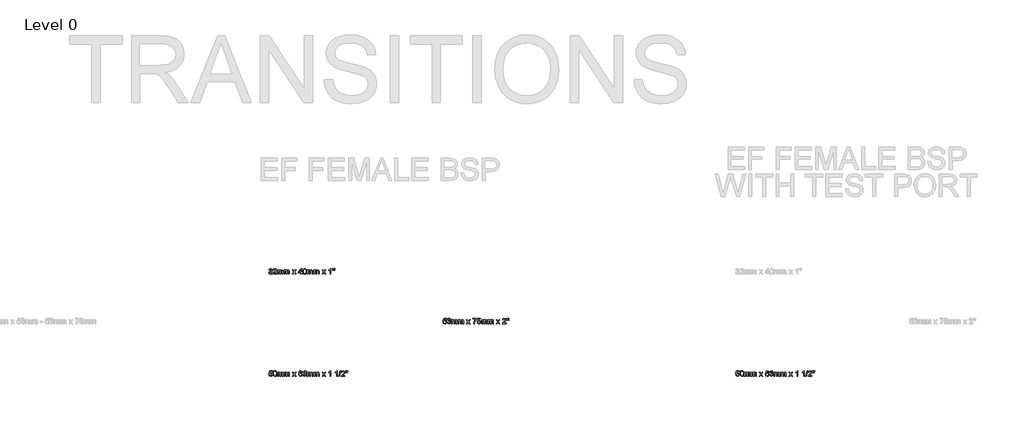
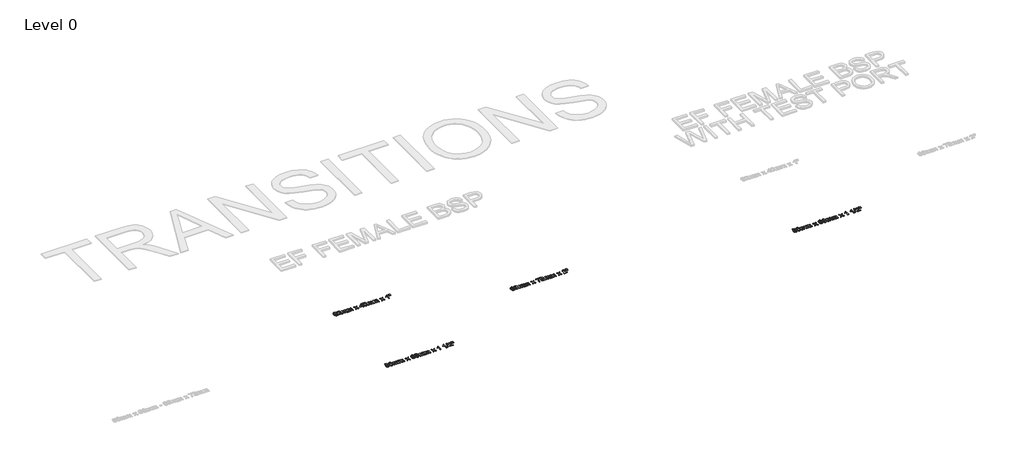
# One storey, part 4 of 21: 4 proxies.
"""IFC4 building model written with IfcOpenShell, lengths in millimetres."""

import ifcopenshell
import ifcopenshell.guid

model = None  # the IFC model being written
_history = None  # IfcOwnerHistory: only IFC2X3 demands one
_inside = {}  # id of a spatial element -> (the spatial element, [elements in it])
_under = {}  # id of a project, library or spatial element -> (it, [spatial elements below it])
_declared = {}  # id of a project -> (the project, [libraries it declares])
_typed = {}  # id of a type object -> (the type object, [elements of that type])
_made_of = {}  # id of a material, layer set ... -> (it, [elements and type objects made of it])


def new_model(schema):
    """Start an empty IFC model of exactly this schema.

    Asked for "IFC4X3", IfcOpenShell would pick the latest addendum, in which some entities
    have other attributes; the version numbers below select the first issue.
    IFC2X3 requires an IfcOwnerHistory on every rooted entity: one is made here for all.
    """
    global model, _history
    if schema == "IFC4X3":
        model = ifcopenshell.file(schema_version=(4, 3, 0, 0))
    else:
        model = ifcopenshell.file(schema=schema)
    _inside.clear()
    _under.clear()
    _declared.clear()
    _typed.clear()
    _made_of.clear()
    _history = None
    if model.schema == "IFC2X3":
        org = make("IfcOrganization", Name="unknown")
        user = make(
            "IfcPersonAndOrganization",
            ThePerson=make("IfcPerson", FamilyName="unknown"),
            TheOrganization=org,
        )
        app = make(
            "IfcApplication",
            ApplicationDeveloper=org,
            Version="unknown",
            ApplicationFullName="unknown",
            ApplicationIdentifier="unknown",
        )
        _history = make(
            "IfcOwnerHistory",
            OwningUser=user,
            OwningApplication=app,
            ChangeAction="ADDED",
            CreationDate=0,
        )
    return model


def make(cls, **values):
    """One entity of the class cls with the attributes given. An attribute that is None is left unset."""
    return model.create_entity(
        cls, **{name: value for name, value in values.items() if value is not None}
    )


def rooted(cls, **values):
    """An entity with a GlobalId (a new one), such as an element, a storey or a relation."""
    return make(cls, GlobalId=ifcopenshell.guid.new(), OwnerHistory=_history, **values)


def si_unit(unit_type, name, prefix=None):
    """IfcSIUnit, for example si_unit("LENGTHUNIT", "METRE", prefix="MILLI")."""
    return make("IfcSIUnit", UnitType=unit_type, Prefix=prefix, Name=name)


def assignment(units):
    """IfcUnitAssignment: the units of a project."""
    return None if units is None else make("IfcUnitAssignment", Units=units)


def point(xyz):
    """IfcCartesianPoint."""
    return None if xyz is None else make("IfcCartesianPoint", Coordinates=xyz)


def direction(xyz):
    """IfcDirection."""
    return None if xyz is None else make("IfcDirection", DirectionRatios=xyz)


def frame(location, z_axis=None, x_axis=None):
    """IfcAxis2Placement3D, a coordinate frame: its origin and axes. An axis left out is left unset."""
    return make(
        "IfcAxis2Placement3D",
        Location=point(location),
        Axis=direction(z_axis),
        RefDirection=direction(x_axis),
    )


def origin():
    """The frame at (0, 0, 0) with its axes left unset."""
    return frame((0.0, 0.0, 0.0))


def origin_with_axes():
    """The frame at (0, 0, 0) with the z axis (0, 0, 1) and the x axis (1, 0, 0) written out."""
    return frame((0.0, 0.0, 0.0), z_axis=(0.0, 0.0, 1.0), x_axis=(1.0, 0.0, 0.0))


def place(relative_to, where):
    """IfcLocalPlacement: puts the frame where relative to a parent placement (None: the world)."""
    return make(
        "IfcLocalPlacement", PlacementRelTo=relative_to, RelativePlacement=where
    )


def context(
    kind, dimensions, precision=None, world=None, true_north=None, identifier=None
):
    """IfcGeometricRepresentationContext, for example the 3D "Model" context."""
    return make(
        "IfcGeometricRepresentationContext",
        ContextIdentifier=identifier,
        ContextType=kind,
        CoordinateSpaceDimension=dimensions,
        Precision=precision,
        WorldCoordinateSystem=world,
        TrueNorth=true_north,
    )


def project(units=None, contexts=None):
    """IfcProject with its units and contexts."""
    return rooted(
        "IfcProject",
        Name="project",
        RepresentationContexts=contexts,
        UnitsInContext=assignment(units),
    )


def spatial(cls, under=None, at=None, **own):
    """A site, building, storey or space (cls), placed at a placement, below another one or the project."""
    s = rooted(cls, ObjectPlacement=at, **own)
    if under is not None:
        _under.setdefault(under.id(), (under, []))[1].append(s)
    return s


def polyline(points):
    """IfcPolyline through the points."""
    return make("IfcPolyline", Points=[point(p) for p in points])


def outline(outer, holes=None, kind="AREA"):
    """IfcArbitraryClosedProfileDef: a profile drawn as a closed curve; with holes, ...WithVoids."""
    if holes is None:
        return make("IfcArbitraryClosedProfileDef", ProfileType=kind, OuterCurve=outer)
    return make(
        "IfcArbitraryProfileDefWithVoids",
        ProfileType=kind,
        OuterCurve=outer,
        InnerCurves=holes,
    )


def extrude(swept, where, along, depth):
    """IfcExtrudedAreaSolid: the profile swept, set in the frame where, extruded along a direction by depth."""
    return make(
        "IfcExtrudedAreaSolid",
        SweptArea=swept,
        Position=where,
        ExtrudedDirection=direction(along),
        Depth=depth,
    )


def shape(context_of_items, identifier, shape_type, items):
    """IfcShapeRepresentation: the items that make up one representation, for example the "Body"."""
    return make(
        "IfcShapeRepresentation",
        ContextOfItems=context_of_items,
        RepresentationIdentifier=identifier,
        RepresentationType=shape_type,
        Items=items,
    )


def made_of(thing, what):
    """Note that an element or type object is made of a material, layer set ...; save() writes the relation."""
    if what is not None:
        _made_of.setdefault(what.id(), (what, []))[1].append(thing)
    return thing


def element(
    cls,
    number,
    at=None,
    inside=None,
    cuts=None,
    type_object=None,
    material=None,
    context=None,
    identifier="Body",
    shape_type=None,
    held_by="IfcProductDefinitionShape",
    body=None,
    shapes=None,
    **own,
):
    """One element of the class cls, such as IfcWall. Its Tag is "e" and its number.

    at: its placement. inside: the storey or other place that contains it. cuts: it is an
    opening in that element (IfcRelVoidsElement). A single representation is given by context,
    identifier, shape_type and body (its items); several are given by shapes. held_by: the class
    of the entity that holds the representations. save() writes the other relations.
    """
    e = rooted(cls, Tag="e%d" % number, ObjectPlacement=at, **own)
    if body is not None:
        shapes = [shape(context, identifier, shape_type, body)]
    if shapes is not None:
        e.Representation = make(held_by, Representations=shapes)
    if inside is not None:
        _inside.setdefault(inside.id(), (inside, []))[1].append(e)
    if cuts is not None:
        rooted(
            "IfcRelVoidsElement", RelatingBuildingElement=cuts, RelatedOpeningElement=e
        )
    if type_object is not None:
        _typed.setdefault(type_object.id(), (type_object, []))[1].append(e)
    return made_of(e, material)


def aggregate(whole, parts):
    """IfcRelAggregates: a whole, such as a stair, and the parts it consists of."""
    return rooted("IfcRelAggregates", RelatingObject=whole, RelatedObjects=parts)


def save(model, path):
    """Write the relations noted so far, then the file.

    IfcRelAggregates (storeys below a building ...), IfcRelContainedInSpatialStructure (elements
    in a storey), IfcRelDefinesByType, IfcRelAssociatesMaterial and IfcRelDeclares: one each for
    every whole, place, type object, material and project.
    """
    for whole, parts in _under.values():
        aggregate(whole, parts)
    for where, things in _inside.values():
        rooted(
            "IfcRelContainedInSpatialStructure",
            RelatedElements=things,
            RelatingStructure=where,
        )
    for kind, things in _typed.values():
        rooted("IfcRelDefinesByType", RelatedObjects=things, RelatingType=kind)
    for what, things in _made_of.values():
        rooted("IfcRelAssociatesMaterial", RelatedObjects=things, RelatingMaterial=what)
    for by, libraries in _declared.values():
        rooted("IfcRelDeclares", RelatingContext=by, RelatedDefinitions=libraries)
    model.write(path)


model = new_model("IFC4")

# Units and contexts
model_context = context("Model", 3, world=origin())
ifc_project = project(units=[si_unit("LENGTHUNIT", "METRE", prefix="MILLI")], contexts=[model_context])

# Site, building, storey
site = spatial("IfcSite", under=ifc_project)
building = spatial("IfcBuilding", under=site)
storey = spatial("IfcBuildingStorey", under=building, Name="Level 0", Elevation=0.0)

# Proxies
placement = place(None, origin())
element("IfcBuildingElementProxy", 1, Name="50mm", ObjectType="50mm", at=placement, inside=storey, context=model_context, shape_type="SweptSolid", body=[
    extrude(outline(polyline([(-7438.2285688, -12783.2605095), (-7431.9500494, -12782.4756946), (-7428.4858273, -12789.0853078), (-7422.0049728, -12791.1086588), (-7414.3775528, -12788.3250183), (-7411.5448614, -12781.4333623), (-7414.3530273, -12774.9402451), (-7421.4899381, -12772.3712025), (-7425.8922593, -12773.0579155), (-7425.1932835, -12766.7793962), (-7417.0630914, -12765.0503508), (-7413.8993062, -12759.5075954), (-7416.1924373, -12754.5963707), (-7422.1030747, -12752.6527275), (-7428.0872885, -12754.6147648), (-7431.1652345, -12760.5008768), (-7437.4437539, -12759.7160618), (-7432.3056687, -12749.8690871), (-7422.3238039, -12746.3742082), (-7414.7515662, -12748.0971222), (-7409.4540654, -12752.8060117), (-7407.6207868, -12759.1397134), (-7409.3620949, -12764.9277234), (-7414.5124429, -12769.08479), (-7407.6698378, -12773.3767466), (-7405.2663421, -12781.5437269), (-7410.0733335, -12792.7763905), (-7422.225702, -12797.3871782), (-7433.2376364, -12793.4508408), (-7438.2285688, -12783.2605095)])), origin_with_axes(), (0.0, 0.0, 1.0), 5.0),
    extrude(outline(polyline([(-7367.5952258, -12790.3238438), (-7367.5952258, -12796.6023632), (-7400.5574525, -12796.6023632), (-7399.8830022, -12792.2736184), (-7396.0692922, -12785.6088229), (-7388.2088802, -12778.3308908), (-7377.3686241, -12767.8707794), (-7374.6585601, -12760.7583942), (-7377.2153399, -12755.0010409), (-7383.8923981, -12752.6527275), (-7390.8514992, -12754.9458586), (-7393.4941182, -12761.2856917), (-7399.7726376, -12760.5008768), (-7394.9595148, -12749.9917144), (-7383.7575081, -12746.3742082), (-7372.5187131, -12750.3963846), (-7368.3800407, -12760.3782494), (-7369.4959494, -12766.3318064), (-7373.2054262, -12772.4876984), (-7382.200141, -12781.0900058), (-7389.4228908, -12787.1294019), (-7392.2555822, -12790.3238438), (-7367.5952258, -12790.3238438)])), origin_with_axes(), (0.0, 0.0, 1.0), 5.0),
    extrude(outline(polyline([(-7359.7470765, -12796.6023632), (-7359.7470765, -12759.7160618), (-7353.4685571, -12759.7160618), (-7353.4685571, -12765.7861148), (-7349.1520751, -12760.8135765), (-7343.0084457, -12758.9312469), (-7336.7176636, -12760.8503647), (-7333.2595729, -12766.2275732), (-7328.360611, -12760.7553285), (-7322.1740621, -12758.9312469), (-7313.9641622, -12761.9662734), (-7311.0885513, -12771.3166074), (-7311.0885513, -12796.6023632), (-7317.3670707, -12796.6023632), (-7317.3670707, -12774.0144087), (-7317.9495505, -12768.7720903), (-7320.0587406, -12766.190785), (-7323.6455901, -12765.2097663), (-7329.8198762, -12767.7236266), (-7332.2785542, -12775.7802423), (-7332.2785542, -12796.6023632), (-7338.5570736, -12796.6023632), (-7338.5570736, -12773.3154329), (-7340.0102075, -12767.2331173), (-7344.7742793, -12765.2097663), (-7349.4218552, -12766.558667), (-7352.512064, -12770.507267), (-7353.4685571, -12777.999797), (-7353.4685571, -12796.6023632), (-7359.7470765, -12796.6023632)])), origin_with_axes(), (0.0, 0.0, 1.0), 5.0),
    extrude(outline(polyline([(-7301.6707722, -12796.6023632), (-7301.6707722, -12759.7160618), (-7295.3922528, -12759.7160618), (-7295.3922528, -12765.7861148), (-7291.0757708, -12760.8135765), (-7284.9321414, -12758.9312469), (-7278.6413593, -12760.8503647), (-7275.1832686, -12766.2275732), (-7270.2843067, -12760.7553285), (-7264.0977578, -12758.9312469), (-7255.8878579, -12761.9662734), (-7253.012247, -12771.3166074), (-7253.012247, -12796.6023632), (-7259.2907664, -12796.6023632), (-7259.2907664, -12774.0144087), (-7259.8732462, -12768.7720903), (-7261.9824363, -12766.190785), (-7265.5692858, -12765.2097663), (-7271.7435719, -12767.7236266), (-7274.2022499, -12775.7802423), (-7274.2022499, -12796.6023632), (-7280.4807693, -12796.6023632), (-7280.4807693, -12773.3154329), (-7281.9339032, -12767.2331173), (-7286.697975, -12765.2097663), (-7291.3455509, -12766.558667), (-7294.4357597, -12770.507267), (-7295.3922528, -12777.999797), (-7295.3922528, -12796.6023632), (-7301.6707722, -12796.6023632)])), origin_with_axes(), (0.0, 0.0, 1.0), 5.0),
    extrude(outline(polyline([(-7227.8981695, -12796.6023632), (-7214.4827394, -12778.0611107), (-7227.1133545, -12759.7160618), (-7219.5595109, -12759.7160618), (-7213.4649325, -12768.5452297), (-7210.6199784, -12772.714559), (-7208.155169, -12769.3055192), (-7201.2144621, -12759.7160618), (-7193.6606184, -12759.7160618), (-7206.9288957, -12778.0611107), (-7194.1511278, -12796.6023632), (-7201.7049714, -12796.6023632), (-7209.3937051, -12785.4555388), (-7210.8039194, -12783.4199251), (-7220.3443258, -12796.6023632), (-7227.8981695, -12796.6023632)])), origin_with_axes(), (0.0, 0.0, 1.0), 5.0),
    extrude(outline(polyline([(-7150.2014921, -12796.6023632), (-7150.2014921, -12784.8301394), (-7172.9611248, -12784.8301394), (-7172.9611248, -12778.55162), (-7148.6318622, -12747.1590231), (-7143.9229727, -12747.1590231), (-7143.9229727, -12778.55162), (-7137.6444533, -12778.55162), (-7137.6444533, -12784.8301394), (-7143.9229727, -12784.8301394), (-7143.9229727, -12796.6023632), (-7150.2014921, -12796.6023632)]), holes=[polyline([(-7150.2014921, -12778.55162), (-7150.2014921, -12759.1519761), (-7165.2356029, -12778.55162), (-7150.2014921, -12778.55162)])]), origin_with_axes(), (0.0, 0.0, 1.0), 5.0),
    extrude(outline(polyline([(-7132.1507488, -12771.8929559), (-7130.3052075, -12757.4413248), (-7124.8237658, -12749.1087977), (-7115.6696355, -12746.3742082), (-7108.336521, -12747.9928889), (-7103.2720122, -12752.6588589), (-7100.3289563, -12760.0900752), (-7099.1885221, -12771.8929559), (-7101.0156693, -12786.2832733), (-7106.4787169, -12794.6341946), (-7115.6696355, -12797.3871782), (-7127.1475537, -12792.6047122), (-7130.8999501, -12784.1097038), (-7132.1507488, -12771.8929559)]), holes=[polyline([(-7125.8722295, -12771.8806932), (-7122.9291735, -12787.4727584), (-7115.6696355, -12791.1086588), (-7108.4100974, -12787.4604957), (-7105.4670415, -12771.8806932), (-7108.3119956, -12756.4664376), (-7115.7432119, -12752.6527275), (-7122.8310716, -12756.0127164), (-7125.8722295, -12771.8806932)])]), origin_with_axes(), (0.0, 0.0, 1.0), 5.0),
    extrude(outline(polyline([(-7092.1251878, -12796.6023632), (-7092.1251878, -12759.7160618), (-7085.8466684, -12759.7160618), (-7085.8466684, -12765.7861148), (-7081.5301863, -12760.8135765), (-7075.386557, -12758.9312469), (-7069.0957749, -12760.8503647), (-7065.6376841, -12766.2275732), (-7060.7387222, -12760.7553285), (-7054.5521733, -12758.9312469), (-7046.3422735, -12761.9662734), (-7043.4666625, -12771.3166074), (-7043.4666625, -12796.6023632), (-7049.7451819, -12796.6023632), (-7049.7451819, -12774.0144087), (-7050.3276618, -12768.7720903), (-7052.4368519, -12766.190785), (-7056.0237013, -12765.2097663), (-7062.1979875, -12767.7236266), (-7064.6566655, -12775.7802423), (-7064.6566655, -12796.6023632), (-7070.9351848, -12796.6023632), (-7070.9351848, -12773.3154329), (-7072.3883187, -12767.2331173), (-7077.1523906, -12765.2097663), (-7081.7999664, -12766.558667), (-7084.8901752, -12770.507267), (-7085.8466684, -12777.999797), (-7085.8466684, -12796.6023632), (-7092.1251878, -12796.6023632)])), origin_with_axes(), (0.0, 0.0, 1.0), 5.0),
    extrude(outline(polyline([(-7034.0488835, -12796.6023632), (-7034.0488835, -12759.7160618), (-7027.7703641, -12759.7160618), (-7027.7703641, -12765.7861148), (-7023.453882, -12760.8135765), (-7017.3102527, -12758.9312469), (-7011.0194706, -12760.8503647), (-7007.5613798, -12766.2275732), (-7002.6624179, -12760.7553285), (-6996.475869, -12758.9312469), (-6988.2659692, -12761.9662734), (-6985.3903582, -12771.3166074), (-6985.3903582, -12796.6023632), (-6991.6688776, -12796.6023632), (-6991.6688776, -12774.0144087), (-6992.2513574, -12768.7720903), (-6994.3605476, -12766.190785), (-6997.947397, -12765.2097663), (-7004.1216832, -12767.7236266), (-7006.5803612, -12775.7802423), (-7006.5803612, -12796.6023632), (-7012.8588805, -12796.6023632), (-7012.8588805, -12773.3154329), (-7014.3120144, -12767.2331173), (-7019.0760863, -12765.2097663), (-7023.7236621, -12766.558667), (-7026.8138709, -12770.507267), (-7027.7703641, -12777.999797), (-7027.7703641, -12796.6023632), (-7034.0488835, -12796.6023632)])), origin_with_axes(), (0.0, 0.0, 1.0), 5.0),
    extrude(outline(polyline([(-6960.2762807, -12796.6023632), (-6946.8608506, -12778.0611107), (-6959.4914658, -12759.7160618), (-6951.9376221, -12759.7160618), (-6945.8430438, -12768.5452297), (-6942.9980897, -12772.714559), (-6940.5332803, -12769.3055192), (-6933.5925733, -12759.7160618), (-6926.0387297, -12759.7160618), (-6939.307007, -12778.0611107), (-6926.529239, -12796.6023632), (-6934.0830826, -12796.6023632), (-6941.7718163, -12785.4555388), (-6943.1820307, -12783.4199251), (-6952.7224371, -12796.6023632), (-6960.2762807, -12796.6023632)])), origin_with_axes(), (0.0, 0.0, 1.0), 5.0),
    extrude(outline(polyline([(-6879.4403436, -12796.6023632), (-6885.718863, -12796.6023632), (-6885.718863, -12757.4597189), (-6891.6662886, -12761.6964933), (-6898.2759018, -12764.8664098), (-6898.2759018, -12758.9312469), (-6889.0727205, -12753.0573977), (-6883.4870456, -12746.3742082), (-6879.4403436, -12746.3742082), (-6879.4403436, -12796.6023632)])), origin_with_axes(), (0.0, 0.0, 1.0), 5.0),
    extrude(outline(polyline([(-6850.4757679, -12764.4249514), (-6851.9718213, -12754.7251294), (-6851.9718213, -12746.3742082), (-6845.6933019, -12746.3742082), (-6845.6933019, -12754.7251294), (-6847.1648299, -12764.4249514), (-6850.4757679, -12764.4249514)])), origin_with_axes(), (0.0, 0.0, 1.0), 5.0),
    extrude(outline(polyline([(-6862.9960184, -12764.4249514), (-6864.5288601, -12754.7251294), (-6864.5288601, -12746.3742082), (-6858.2503407, -12746.3742082), (-6858.2503407, -12754.7251294), (-6859.6237668, -12764.4249514), (-6862.9960184, -12764.4249514)])), origin_with_axes(), (0.0, 0.0, 1.0), 5.0),
])
element("IfcBuildingElementProxy", 2, Name="50mm", ObjectType="50mm", at=placement, inside=storey, context=model_context, shape_type="SweptSolid", body=[
    extrude(outline(polyline([(-7438.2285688, -13703.2605095), (-7431.9500494, -13702.4756946), (-7428.7862643, -13708.9442864), (-7422.225702, -13711.1086588), (-7414.3530273, -13708.0981578), (-7411.5448614, -13700.1089871), (-7414.1752177, -13692.6532453), (-7422.1276002, -13689.9186558), (-7427.6396987, -13691.0100391), (-7431.1652345, -13693.8427305), (-7437.4437539, -13693.0579155), (-7431.9500494, -13667.1590231), (-7407.6207868, -13667.1590231), (-7407.6207868, -13673.4375425), (-7426.8732779, -13673.4375425), (-7429.5588165, -13687.2699055), (-7420.3740293, -13683.6401365), (-7409.6380064, -13688.1405595), (-7405.2663421, -13699.7165797), (-7409.2026794, -13711.3661762), (-7414.8557994, -13715.8819277), (-7422.2502275, -13717.3871782), (-7433.3296069, -13713.5182858), (-7438.2285688, -13703.2605095)])), origin_with_axes(), (0.0, 0.0, 1.0), 5.0),
    extrude(outline(polyline([(-7399.7726376, -13691.8929559), (-7397.9270963, -13677.4413248), (-7392.4456545, -13669.1087977), (-7383.2915242, -13666.3742082), (-7375.9584098, -13667.9928889), (-7370.893901, -13672.6588589), (-7367.950845, -13680.0900752), (-7366.8104108, -13691.8929559), (-7368.6375581, -13706.2832733), (-7374.1006057, -13714.6341946), (-7383.2915242, -13717.3871782), (-7394.7694425, -13712.6047122), (-7398.5218388, -13704.1097038), (-7399.7726376, -13691.8929559)]), holes=[polyline([(-7393.4941182, -13691.8806932), (-7390.5510623, -13707.4727584), (-7383.2915242, -13711.1086588), (-7376.0319862, -13707.4604957), (-7373.0889302, -13691.8806932), (-7375.9338843, -13676.4664376), (-7383.3651006, -13672.6527275), (-7390.4529604, -13676.0127164), (-7393.4941182, -13691.8806932)])]), origin_with_axes(), (0.0, 0.0, 1.0), 5.0),
    extrude(outline(polyline([(-7359.7470765, -13716.6023632), (-7359.7470765, -13679.7160618), (-7353.4685571, -13679.7160618), (-7353.4685571, -13685.7861148), (-7349.1520751, -13680.8135765), (-7343.0084457, -13678.9312469), (-7336.7176636, -13680.8503647), (-7333.2595729, -13686.2275732), (-7328.360611, -13680.7553285), (-7322.1740621, -13678.9312469), (-7313.9641622, -13681.9662734), (-7311.0885513, -13691.3166074), (-7311.0885513, -13716.6023632), (-7317.3670707, -13716.6023632), (-7317.3670707, -13694.0144087), (-7317.9495505, -13688.7720903), (-7320.0587406, -13686.190785), (-7323.6455901, -13685.2097663), (-7329.8198762, -13687.7236266), (-7332.2785542, -13695.7802423), (-7332.2785542, -13716.6023632), (-7338.5570736, -13716.6023632), (-7338.5570736, -13693.3154329), (-7340.0102075, -13687.2331173), (-7344.7742793, -13685.2097663), (-7349.4218552, -13686.558667), (-7352.512064, -13690.507267), (-7353.4685571, -13697.999797), (-7353.4685571, -13716.6023632), (-7359.7470765, -13716.6023632)])), origin_with_axes(), (0.0, 0.0, 1.0), 5.0),
    extrude(outline(polyline([(-7301.6707722, -13716.6023632), (-7301.6707722, -13679.7160618), (-7295.3922528, -13679.7160618), (-7295.3922528, -13685.7861148), (-7291.0757708, -13680.8135765), (-7284.9321414, -13678.9312469), (-7278.6413593, -13680.8503647), (-7275.1832686, -13686.2275732), (-7270.2843067, -13680.7553285), (-7264.0977578, -13678.9312469), (-7255.8878579, -13681.9662734), (-7253.012247, -13691.3166074), (-7253.012247, -13716.6023632), (-7259.2907664, -13716.6023632), (-7259.2907664, -13694.0144087), (-7259.8732462, -13688.7720903), (-7261.9824363, -13686.190785), (-7265.5692858, -13685.2097663), (-7271.7435719, -13687.7236266), (-7274.2022499, -13695.7802423), (-7274.2022499, -13716.6023632), (-7280.4807693, -13716.6023632), (-7280.4807693, -13693.3154329), (-7281.9339032, -13687.2331173), (-7286.697975, -13685.2097663), (-7291.3455509, -13686.558667), (-7294.4357597, -13690.507267), (-7295.3922528, -13697.999797), (-7295.3922528, -13716.6023632), (-7301.6707722, -13716.6023632)])), origin_with_axes(), (0.0, 0.0, 1.0), 5.0),
    extrude(outline(polyline([(-7227.8981695, -13716.6023632), (-7214.4827394, -13698.0611107), (-7227.1133545, -13679.7160618), (-7219.5595109, -13679.7160618), (-7213.4649325, -13688.5452297), (-7210.6199784, -13692.714559), (-7208.155169, -13689.3055192), (-7201.2144621, -13679.7160618), (-7193.6606184, -13679.7160618), (-7206.9288957, -13698.0611107), (-7194.1511278, -13716.6023632), (-7201.7049714, -13716.6023632), (-7209.3937051, -13705.4555388), (-7210.8039194, -13703.4199251), (-7220.3443258, -13716.6023632), (-7227.8981695, -13716.6023632)])), origin_with_axes(), (0.0, 0.0, 1.0), 5.0),
    extrude(outline(polyline([(-7138.4292682, -13679.7160618), (-7144.7077876, -13680.5008768), (-7147.0867578, -13675.2646897), (-7153.37754, -13672.6527275), (-7159.0429227, -13674.1733065), (-7163.3287479, -13679.8816087), (-7165.1129756, -13691.0713528), (-7159.5763516, -13686.0620263), (-7152.7153524, -13684.4249514), (-7142.0467745, -13688.900849), (-7137.6444533, -13700.4646064), (-7139.7168552, -13709.1282274), (-7145.4190261, -13715.2595939), (-7153.6473201, -13717.3871782), (-7166.4434822, -13711.7463209), (-7170.1544918, -13704.2783164), (-7171.391495, -13693.1560174), (-7170.0180689, -13680.6510953), (-7165.8977905, -13672.1009045), (-7160.2722617, -13667.8058823), (-7152.9851325, -13666.3742082), (-7143.0645814, -13669.918138), (-7138.4292682, -13679.7160618)]), holes=[polyline([(-7165.1129756, -13700.3665045), (-7163.6598417, -13705.8050267), (-7159.7970808, -13709.7536268), (-7154.1378294, -13711.1086588), (-7146.73727, -13708.3004929), (-7143.9229727, -13700.6730728), (-7146.7004818, -13693.3706152), (-7154.3953468, -13690.7034708), (-7161.99211, -13693.3706152), (-7165.1129756, -13700.3665045)])]), origin_with_axes(), (0.0, 0.0, 1.0), 5.0),
    extrude(outline(polyline([(-7132.1507488, -13703.2605095), (-7125.8722295, -13702.4756946), (-7122.4080073, -13709.0853078), (-7115.9271529, -13711.1086588), (-7108.2997328, -13708.3250183), (-7105.4670415, -13701.4333623), (-7108.2752074, -13694.9402451), (-7115.4121181, -13692.3712025), (-7119.8144393, -13693.0579155), (-7119.1154635, -13686.7793962), (-7110.9852714, -13685.0503508), (-7107.8214862, -13679.5075954), (-7110.1146173, -13674.5963707), (-7116.0252547, -13672.6527275), (-7122.0094685, -13674.6147648), (-7125.0874145, -13680.5008768), (-7131.3659339, -13679.7160618), (-7126.2278487, -13669.8690871), (-7116.2459839, -13666.3742082), (-7108.6737462, -13668.0971222), (-7103.3762455, -13672.8060117), (-7101.5429668, -13679.1397134), (-7103.284275, -13684.9277234), (-7108.4346229, -13689.08479), (-7101.5920178, -13693.3767466), (-7099.1885221, -13701.5437269), (-7103.9955135, -13712.7763905), (-7116.1478821, -13717.3871782), (-7127.1598164, -13713.4508408), (-7132.1507488, -13703.2605095)])), origin_with_axes(), (0.0, 0.0, 1.0), 5.0),
    extrude(outline(polyline([(-7092.1251878, -13716.6023632), (-7092.1251878, -13679.7160618), (-7085.8466684, -13679.7160618), (-7085.8466684, -13685.7861148), (-7081.5301863, -13680.8135765), (-7075.386557, -13678.9312469), (-7069.0957749, -13680.8503647), (-7065.6376841, -13686.2275732), (-7060.7387222, -13680.7553285), (-7054.5521733, -13678.9312469), (-7046.3422735, -13681.9662734), (-7043.4666625, -13691.3166074), (-7043.4666625, -13716.6023632), (-7049.7451819, -13716.6023632), (-7049.7451819, -13694.0144087), (-7050.3276618, -13688.7720903), (-7052.4368519, -13686.190785), (-7056.0237013, -13685.2097663), (-7062.1979875, -13687.7236266), (-7064.6566655, -13695.7802423), (-7064.6566655, -13716.6023632), (-7070.9351848, -13716.6023632), (-7070.9351848, -13693.3154329), (-7072.3883187, -13687.2331173), (-7077.1523906, -13685.2097663), (-7081.7999664, -13686.558667), (-7084.8901752, -13690.507267), (-7085.8466684, -13697.999797), (-7085.8466684, -13716.6023632), (-7092.1251878, -13716.6023632)])), origin_with_axes(), (0.0, 0.0, 1.0), 5.0),
    extrude(outline(polyline([(-7034.0488835, -13716.6023632), (-7034.0488835, -13679.7160618), (-7027.7703641, -13679.7160618), (-7027.7703641, -13685.7861148), (-7023.453882, -13680.8135765), (-7017.3102527, -13678.9312469), (-7011.0194706, -13680.8503647), (-7007.5613798, -13686.2275732), (-7002.6624179, -13680.7553285), (-6996.475869, -13678.9312469), (-6988.2659692, -13681.9662734), (-6985.3903582, -13691.3166074), (-6985.3903582, -13716.6023632), (-6991.6688776, -13716.6023632), (-6991.6688776, -13694.0144087), (-6992.2513574, -13688.7720903), (-6994.3605476, -13686.190785), (-6997.947397, -13685.2097663), (-7004.1216832, -13687.7236266), (-7006.5803612, -13695.7802423), (-7006.5803612, -13716.6023632), (-7012.8588805, -13716.6023632), (-7012.8588805, -13693.3154329), (-7014.3120144, -13687.2331173), (-7019.0760863, -13685.2097663), (-7023.7236621, -13686.558667), (-7026.8138709, -13690.507267), (-7027.7703641, -13697.999797), (-7027.7703641, -13716.6023632), (-7034.0488835, -13716.6023632)])), origin_with_axes(), (0.0, 0.0, 1.0), 5.0),
    extrude(outline(polyline([(-6960.2762807, -13716.6023632), (-6946.8608506, -13698.0611107), (-6959.4914658, -13679.7160618), (-6951.9376221, -13679.7160618), (-6945.8430438, -13688.5452297), (-6942.9980897, -13692.714559), (-6940.5332803, -13689.3055192), (-6933.5925733, -13679.7160618), (-6926.0387297, -13679.7160618), (-6939.307007, -13698.0611107), (-6926.529239, -13716.6023632), (-6934.0830826, -13716.6023632), (-6941.7718163, -13705.4555388), (-6943.1820307, -13703.4199251), (-6952.7224371, -13716.6023632), (-6960.2762807, -13716.6023632)])), origin_with_axes(), (0.0, 0.0, 1.0), 5.0),
    extrude(outline(polyline([(-6879.4403436, -13716.6023632), (-6885.718863, -13716.6023632), (-6885.718863, -13677.4597189), (-6891.6662886, -13681.6964933), (-6898.2759018, -13684.8664098), (-6898.2759018, -13678.9312469), (-6889.0727205, -13673.0573977), (-6883.4870456, -13666.3742082), (-6879.4403436, -13666.3742082), (-6879.4403436, -13716.6023632)])), origin_with_axes(), (0.0, 0.0, 1.0), 5.0),
    extrude(outline(polyline([(-6821.3640393, -13716.6023632), (-6827.6425587, -13716.6023632), (-6827.6425587, -13677.4597189), (-6833.5899843, -13681.6964933), (-6840.1995975, -13684.8664098), (-6840.1995975, -13678.9312469), (-6830.9964162, -13673.0573977), (-6825.4107413, -13666.3742082), (-6821.3640393, -13666.3742082), (-6821.3640393, -13716.6023632)])), origin_with_axes(), (0.0, 0.0, 1.0), 5.0),
    extrude(outline(polyline([(-6809.5918155, -13716.6023632), (-6795.4651469, -13666.3742082), (-6789.7997641, -13666.3742082), (-6803.9264327, -13716.6023632), (-6809.5918155, -13716.6023632)])), origin_with_axes(), (0.0, 0.0, 1.0), 5.0),
    extrude(outline(polyline([(-6754.6547709, -13710.3238438), (-6754.6547709, -13716.6023632), (-6787.6169976, -13716.6023632), (-6786.9425473, -13712.2736184), (-6783.1288373, -13705.6088229), (-6775.2684253, -13698.3308908), (-6764.4281692, -13687.8707794), (-6761.7181052, -13680.7583942), (-6764.274885, -13675.0010409), (-6770.9519432, -13672.6527275), (-6777.9110443, -13674.9458586), (-6780.5536633, -13681.2856917), (-6786.8321827, -13680.5008768), (-6782.0190599, -13669.9917144), (-6770.8170532, -13666.3742082), (-6759.5782582, -13670.3963846), (-6755.4395858, -13680.3782494), (-6756.5554945, -13686.3318064), (-6760.2649713, -13692.4876984), (-6769.2596861, -13701.0900058), (-6776.4824359, -13707.1294019), (-6779.3151273, -13710.3238438), (-6754.6547709, -13710.3238438)])), origin_with_axes(), (0.0, 0.0, 1.0), 5.0),
    extrude(outline(polyline([(-6746.8434098, -13684.4249514), (-6748.3762515, -13674.7251294), (-6748.3762515, -13666.3742082), (-6742.0977321, -13666.3742082), (-6742.0977321, -13674.7251294), (-6743.4711582, -13684.4249514), (-6746.8434098, -13684.4249514)])), origin_with_axes(), (0.0, 0.0, 1.0), 5.0),
    extrude(outline(polyline([(-6734.3231593, -13684.4249514), (-6735.8192127, -13674.7251294), (-6735.8192127, -13666.3742082), (-6729.5406933, -13666.3742082), (-6729.5406933, -13674.7251294), (-6731.0122213, -13684.4249514), (-6734.3231593, -13684.4249514)])), origin_with_axes(), (0.0, 0.0, 1.0), 5.0),
])
element("IfcBuildingElementProxy", 3, Name="50mm", ObjectType="50mm", at=placement, inside=storey, context=model_context, shape_type="SweptSolid", body=[
    extrude(outline(polyline([(-5839.462485, -13206.9585336), (-5845.7410044, -13207.7433485), (-5848.1199746, -13202.5071615), (-5854.4107567, -13199.8951993), (-5860.0761395, -13201.4157782), (-5864.3619647, -13207.1240805), (-5866.1461924, -13218.3138245), (-5860.6095684, -13213.304498), (-5853.7485692, -13211.6674232), (-5843.0799913, -13216.1433208), (-5838.6776701, -13227.7070781), (-5840.750072, -13236.3706991), (-5846.4522429, -13242.5020657), (-5854.6805369, -13244.6296499), (-5867.4766989, -13238.9887927), (-5871.1877086, -13231.5207882), (-5872.4247118, -13220.3984892), (-5871.0512857, -13207.893567), (-5866.9310073, -13199.3433763), (-5861.3054785, -13195.048354), (-5854.0183493, -13193.6166799), (-5844.0977981, -13197.1606098), (-5839.462485, -13206.9585336)]), holes=[polyline([(-5866.1461924, -13227.6089763), (-5864.6930585, -13233.0474984), (-5860.8302976, -13236.9960985), (-5855.1710462, -13238.3511305), (-5847.7704867, -13235.5429646), (-5844.9561895, -13227.9155446), (-5847.7336985, -13220.613087), (-5855.4285636, -13217.9459425), (-5863.0253268, -13220.613087), (-5866.1461924, -13227.6089763)])]), origin_with_axes(), (0.0, 0.0, 1.0), 5.0),
    extrude(outline(polyline([(-5833.1839656, -13230.5029813), (-5826.9054462, -13229.7181664), (-5823.4412241, -13236.3277796), (-5816.9603696, -13238.3511305), (-5809.3329496, -13235.5674901), (-5806.5002582, -13228.6758341), (-5809.3084241, -13222.1827169), (-5816.4453348, -13219.6136743), (-5820.8476561, -13220.3003873), (-5820.1486803, -13214.0218679), (-5812.0184882, -13212.2928225), (-5808.854703, -13206.7500672), (-5811.1478341, -13201.8388425), (-5817.0584715, -13199.8951993), (-5823.0426853, -13201.8572366), (-5826.1206313, -13207.7433485), (-5832.3991507, -13206.9585336), (-5827.2610655, -13197.1115589), (-5817.2792007, -13193.6166799), (-5809.706963, -13195.3395939), (-5804.4094622, -13200.0484835), (-5802.5761836, -13206.3821852), (-5804.3174917, -13212.1701952), (-5809.4678397, -13216.3272618), (-5802.6252346, -13220.6192184), (-5800.2217389, -13228.7861987), (-5805.0287303, -13240.0188623), (-5817.1810988, -13244.6296499), (-5828.1930332, -13240.6933126), (-5833.1839656, -13230.5029813)])), origin_with_axes(), (0.0, 0.0, 1.0), 5.0),
    extrude(outline(polyline([(-5793.1584046, -13243.844835), (-5793.1584046, -13206.9585336), (-5786.8798852, -13206.9585336), (-5786.8798852, -13213.0285865), (-5782.5634031, -13208.0560482), (-5776.4197738, -13206.1737187), (-5770.1289917, -13208.0928364), (-5766.6709009, -13213.4700449), (-5761.771939, -13207.9978003), (-5755.5853901, -13206.1737187), (-5747.3754903, -13209.2087452), (-5744.4998793, -13218.5590792), (-5744.4998793, -13243.844835), (-5750.7783987, -13243.844835), (-5750.7783987, -13221.2568805), (-5751.3608785, -13216.0145621), (-5753.4700686, -13213.4332567), (-5757.0569181, -13212.4522381), (-5763.2312042, -13214.9660984), (-5765.6898822, -13223.0227141), (-5765.6898822, -13243.844835), (-5771.9684016, -13243.844835), (-5771.9684016, -13220.5579047), (-5773.4215355, -13214.4755891), (-5778.1856073, -13212.4522381), (-5782.8331832, -13213.8011387), (-5785.923392, -13217.7497388), (-5786.8798852, -13225.2422688), (-5786.8798852, -13243.844835), (-5793.1584046, -13243.844835)])), origin_with_axes(), (0.0, 0.0, 1.0), 5.0),
    extrude(outline(polyline([(-5735.0821002, -13243.844835), (-5735.0821002, -13206.9585336), (-5728.8035809, -13206.9585336), (-5728.8035809, -13213.0285865), (-5724.4870988, -13208.0560482), (-5718.3434695, -13206.1737187), (-5712.0526873, -13208.0928364), (-5708.5945966, -13213.4700449), (-5703.6956347, -13207.9978003), (-5697.5090858, -13206.1737187), (-5689.2991859, -13209.2087452), (-5686.423575, -13218.5590792), (-5686.423575, -13243.844835), (-5692.7020944, -13243.844835), (-5692.7020944, -13221.2568805), (-5693.2845742, -13216.0145621), (-5695.3937643, -13213.4332567), (-5698.9806138, -13212.4522381), (-5705.1548999, -13214.9660984), (-5707.6135779, -13223.0227141), (-5707.6135779, -13243.844835), (-5713.8920973, -13243.844835), (-5713.8920973, -13220.5579047), (-5715.3452312, -13214.4755891), (-5720.109303, -13212.4522381), (-5724.7568789, -13213.8011387), (-5727.8470877, -13217.7497388), (-5728.8035809, -13225.2422688), (-5728.8035809, -13243.844835), (-5735.0821002, -13243.844835)])), origin_with_axes(), (0.0, 0.0, 1.0), 5.0),
    extrude(outline(polyline([(-5661.3094975, -13243.844835), (-5647.8940674, -13225.3035824), (-5660.5246826, -13206.9585336), (-5652.9708389, -13206.9585336), (-5646.8762605, -13215.7877015), (-5644.0313064, -13219.9570308), (-5641.5664971, -13216.547991), (-5634.6257901, -13206.9585336), (-5627.0719465, -13206.9585336), (-5640.3402238, -13225.3035824), (-5627.5624558, -13243.844835), (-5635.1162994, -13243.844835), (-5642.8050331, -13232.6980105), (-5644.2152474, -13230.6623968), (-5653.7556538, -13243.844835), (-5661.3094975, -13243.844835)])), origin_with_axes(), (0.0, 0.0, 1.0), 5.0),
    extrude(outline(polyline([(-5604.0180081, -13200.6800142), (-5604.0180081, -13194.4014948), (-5571.0557813, -13194.4014948), (-5571.0557813, -13199.4782664), (-5580.4061154, -13212.985667), (-5587.5614202, -13230.196413), (-5589.8913395, -13243.844835), (-5596.1698589, -13243.844835), (-5593.6743927, -13229.6813782), (-5586.8256562, -13213.67238), (-5577.3343007, -13200.6800142), (-5604.0180081, -13200.6800142)])), origin_with_axes(), (0.0, 0.0, 1.0), 5.0),
    extrude(outline(polyline([(-5565.5620769, -13230.5029813), (-5559.2835575, -13229.7181664), (-5556.1197723, -13236.1867581), (-5549.5592101, -13238.3511305), (-5541.6865354, -13235.3406295), (-5538.8783695, -13227.3514589), (-5541.5087257, -13219.8957171), (-5549.4611082, -13217.1611276), (-5554.9732068, -13218.2525109), (-5558.4987426, -13221.0852022), (-5564.7772619, -13220.3003873), (-5559.2835575, -13194.4014948), (-5534.9542949, -13194.4014948), (-5534.9542949, -13200.6800142), (-5554.206786, -13200.6800142), (-5556.8923245, -13214.5123773), (-5547.7075374, -13210.8826082), (-5536.9715145, -13215.3830313), (-5532.5998501, -13226.9590514), (-5536.5361874, -13238.6086479), (-5542.1893074, -13243.1243994), (-5549.5837355, -13244.6296499), (-5560.663115, -13240.7607576), (-5565.5620769, -13230.5029813)])), origin_with_axes(), (0.0, 0.0, 1.0), 5.0),
    extrude(outline(polyline([(-5525.5365158, -13243.844835), (-5525.5365158, -13206.9585336), (-5519.2579964, -13206.9585336), (-5519.2579964, -13213.0285865), (-5514.9415143, -13208.0560482), (-5508.797885, -13206.1737187), (-5502.5071029, -13208.0928364), (-5499.0490121, -13213.4700449), (-5494.1500502, -13207.9978003), (-5487.9635014, -13206.1737187), (-5479.7536015, -13209.2087452), (-5476.8779906, -13218.5590792), (-5476.8779906, -13243.844835), (-5483.1565099, -13243.844835), (-5483.1565099, -13221.2568805), (-5483.7389898, -13216.0145621), (-5485.8481799, -13213.4332567), (-5489.4350293, -13212.4522381), (-5495.6093155, -13214.9660984), (-5498.0679935, -13223.0227141), (-5498.0679935, -13243.844835), (-5504.3465129, -13243.844835), (-5504.3465129, -13220.5579047), (-5505.7996468, -13214.4755891), (-5510.5637186, -13212.4522381), (-5515.2112945, -13213.8011387), (-5518.3015032, -13217.7497388), (-5519.2579964, -13225.2422688), (-5519.2579964, -13243.844835), (-5525.5365158, -13243.844835)])), origin_with_axes(), (0.0, 0.0, 1.0), 5.0),
    extrude(outline(polyline([(-5467.4602115, -13243.844835), (-5467.4602115, -13206.9585336), (-5461.1816921, -13206.9585336), (-5461.1816921, -13213.0285865), (-5456.86521, -13208.0560482), (-5450.7215807, -13206.1737187), (-5444.4307986, -13208.0928364), (-5440.9727078, -13213.4700449), (-5436.0737459, -13207.9978003), (-5429.887197, -13206.1737187), (-5421.6772972, -13209.2087452), (-5418.8016863, -13218.5590792), (-5418.8016863, -13243.844835), (-5425.0802056, -13243.844835), (-5425.0802056, -13221.2568805), (-5425.6626855, -13216.0145621), (-5427.7718756, -13213.4332567), (-5431.358725, -13212.4522381), (-5437.5330112, -13214.9660984), (-5439.9916892, -13223.0227141), (-5439.9916892, -13243.844835), (-5446.2702086, -13243.844835), (-5446.2702086, -13220.5579047), (-5447.7233424, -13214.4755891), (-5452.4874143, -13212.4522381), (-5457.1349902, -13213.8011387), (-5460.2251989, -13217.7497388), (-5461.1816921, -13225.2422688), (-5461.1816921, -13243.844835), (-5467.4602115, -13243.844835)])), origin_with_axes(), (0.0, 0.0, 1.0), 5.0),
    extrude(outline(polyline([(-5393.6876087, -13243.844835), (-5380.2721786, -13225.3035824), (-5392.9027938, -13206.9585336), (-5385.3489502, -13206.9585336), (-5379.2543718, -13215.7877015), (-5376.4094177, -13219.9570308), (-5373.9446083, -13216.547991), (-5367.0039013, -13206.9585336), (-5359.4500577, -13206.9585336), (-5372.718335, -13225.3035824), (-5359.940567, -13243.844835), (-5367.4944107, -13243.844835), (-5375.1831444, -13232.6980105), (-5376.5933587, -13230.6623968), (-5386.1337651, -13243.844835), (-5393.6876087, -13243.844835)])), origin_with_axes(), (0.0, 0.0, 1.0), 5.0),
    extrude(outline(polyline([(-5304.2187075, -13237.5663156), (-5304.2187075, -13243.844835), (-5337.1809343, -13243.844835), (-5336.5064839, -13239.5160902), (-5332.6927739, -13232.8512947), (-5324.832362, -13225.5733626), (-5313.9921058, -13215.1132512), (-5311.2820418, -13208.0008659), (-5313.8388217, -13202.2435127), (-5320.5158799, -13199.8951993), (-5327.474981, -13202.1883304), (-5330.1176, -13208.5281635), (-5336.3961193, -13207.7433485), (-5331.5829966, -13197.2341862), (-5320.3809898, -13193.6166799), (-5309.1421949, -13197.6388564), (-5305.0035224, -13207.6207212), (-5306.1194311, -13213.5742782), (-5309.8289079, -13219.7301702), (-5318.8236227, -13228.3324775), (-5326.0463725, -13234.3718736), (-5328.8790639, -13237.5663156), (-5304.2187075, -13237.5663156)])), origin_with_axes(), (0.0, 0.0, 1.0), 5.0),
    extrude(outline(polyline([(-5283.8870959, -13211.6674232), (-5285.3831493, -13201.9676012), (-5285.3831493, -13193.6166799), (-5279.10463, -13193.6166799), (-5279.10463, -13201.9676012), (-5280.5761579, -13211.6674232), (-5283.8870959, -13211.6674232)])), origin_with_axes(), (0.0, 0.0, 1.0), 5.0),
    extrude(outline(polyline([(-5296.4073465, -13211.6674232), (-5297.9401881, -13201.9676012), (-5297.9401881, -13193.6166799), (-5291.6616687, -13193.6166799), (-5291.6616687, -13201.9676012), (-5293.0350948, -13211.6674232), (-5296.4073465, -13211.6674232)])), origin_with_axes(), (0.0, 0.0, 1.0), 5.0),
])
element("IfcBuildingElementProxy", 4, Name="50mm", ObjectType="50mm", at=placement, inside=storey, context=model_context, shape_type="SweptSolid", body=[
    extrude(outline(polyline([(-3238.2285688, -13703.2605095), (-3231.9500494, -13702.4756946), (-3228.7862643, -13708.9442864), (-3222.225702, -13711.1086588), (-3214.3530273, -13708.0981578), (-3211.5448614, -13700.1089871), (-3214.1752177, -13692.6532453), (-3222.1276002, -13689.9186558), (-3227.6396987, -13691.0100391), (-3231.1652345, -13693.8427305), (-3237.4437539, -13693.0579155), (-3231.9500494, -13667.1590231), (-3207.6207868, -13667.1590231), (-3207.6207868, -13673.4375425), (-3226.8732779, -13673.4375425), (-3229.5588165, -13687.2699055), (-3220.3740293, -13683.6401365), (-3209.6380064, -13688.1405595), (-3205.2663421, -13699.7165797), (-3209.2026794, -13711.3661762), (-3214.8557994, -13715.8819277), (-3222.2502275, -13717.3871782), (-3233.3296069, -13713.5182858), (-3238.2285688, -13703.2605095)])), origin_with_axes(), (0.0, 0.0, 1.0), 5.0),
    extrude(outline(polyline([(-3199.7726376, -13691.8929559), (-3197.9270963, -13677.4413248), (-3192.4456545, -13669.1087977), (-3183.2915242, -13666.3742082), (-3175.9584098, -13667.9928889), (-3170.893901, -13672.6588589), (-3167.950845, -13680.0900752), (-3166.8104108, -13691.8929559), (-3168.6375581, -13706.2832733), (-3174.1006057, -13714.6341946), (-3183.2915242, -13717.3871782), (-3194.7694425, -13712.6047122), (-3198.5218388, -13704.1097038), (-3199.7726376, -13691.8929559)]), holes=[polyline([(-3193.4941182, -13691.8806932), (-3190.5510623, -13707.4727584), (-3183.2915242, -13711.1086588), (-3176.0319862, -13707.4604957), (-3173.0889302, -13691.8806932), (-3175.9338843, -13676.4664376), (-3183.3651006, -13672.6527275), (-3190.4529604, -13676.0127164), (-3193.4941182, -13691.8806932)])]), origin_with_axes(), (0.0, 0.0, 1.0), 5.0),
    extrude(outline(polyline([(-3159.7470765, -13716.6023632), (-3159.7470765, -13679.7160618), (-3153.4685571, -13679.7160618), (-3153.4685571, -13685.7861148), (-3149.1520751, -13680.8135765), (-3143.0084457, -13678.9312469), (-3136.7176636, -13680.8503647), (-3133.2595729, -13686.2275732), (-3128.360611, -13680.7553285), (-3122.1740621, -13678.9312469), (-3113.9641622, -13681.9662734), (-3111.0885513, -13691.3166074), (-3111.0885513, -13716.6023632), (-3117.3670707, -13716.6023632), (-3117.3670707, -13694.0144087), (-3117.9495505, -13688.7720903), (-3120.0587406, -13686.190785), (-3123.6455901, -13685.2097663), (-3129.8198762, -13687.7236266), (-3132.2785542, -13695.7802423), (-3132.2785542, -13716.6023632), (-3138.5570736, -13716.6023632), (-3138.5570736, -13693.3154329), (-3140.0102075, -13687.2331173), (-3144.7742793, -13685.2097663), (-3149.4218552, -13686.558667), (-3152.512064, -13690.507267), (-3153.4685571, -13697.999797), (-3153.4685571, -13716.6023632), (-3159.7470765, -13716.6023632)])), origin_with_axes(), (0.0, 0.0, 1.0), 5.0),
    extrude(outline(polyline([(-3101.6707722, -13716.6023632), (-3101.6707722, -13679.7160618), (-3095.3922528, -13679.7160618), (-3095.3922528, -13685.7861148), (-3091.0757708, -13680.8135765), (-3084.9321414, -13678.9312469), (-3078.6413593, -13680.8503647), (-3075.1832686, -13686.2275732), (-3070.2843067, -13680.7553285), (-3064.0977578, -13678.9312469), (-3055.8878579, -13681.9662734), (-3053.012247, -13691.3166074), (-3053.012247, -13716.6023632), (-3059.2907664, -13716.6023632), (-3059.2907664, -13694.0144087), (-3059.8732462, -13688.7720903), (-3061.9824363, -13686.190785), (-3065.5692858, -13685.2097663), (-3071.7435719, -13687.7236266), (-3074.2022499, -13695.7802423), (-3074.2022499, -13716.6023632), (-3080.4807693, -13716.6023632), (-3080.4807693, -13693.3154329), (-3081.9339032, -13687.2331173), (-3086.697975, -13685.2097663), (-3091.3455509, -13686.558667), (-3094.4357597, -13690.507267), (-3095.3922528, -13697.999797), (-3095.3922528, -13716.6023632), (-3101.6707722, -13716.6023632)])), origin_with_axes(), (0.0, 0.0, 1.0), 5.0),
    extrude(outline(polyline([(-3027.8981695, -13716.6023632), (-3014.4827394, -13698.0611107), (-3027.1133545, -13679.7160618), (-3019.5595109, -13679.7160618), (-3013.4649325, -13688.5452297), (-3010.6199784, -13692.714559), (-3008.155169, -13689.3055192), (-3001.2144621, -13679.7160618), (-2993.6606184, -13679.7160618), (-3006.9288957, -13698.0611107), (-2994.1511278, -13716.6023632), (-3001.7049714, -13716.6023632), (-3009.3937051, -13705.4555388), (-3010.8039194, -13703.4199251), (-3020.3443258, -13716.6023632), (-3027.8981695, -13716.6023632)])), origin_with_axes(), (0.0, 0.0, 1.0), 5.0),
    extrude(outline(polyline([(-2938.4292682, -13679.7160618), (-2944.7077876, -13680.5008768), (-2947.0867578, -13675.2646897), (-2953.37754, -13672.6527275), (-2959.0429227, -13674.1733065), (-2963.3287479, -13679.8816087), (-2965.1129756, -13691.0713528), (-2959.5763516, -13686.0620263), (-2952.7153524, -13684.4249514), (-2942.0467745, -13688.900849), (-2937.6444533, -13700.4646064), (-2939.7168552, -13709.1282274), (-2945.4190261, -13715.2595939), (-2953.6473201, -13717.3871782), (-2966.4434822, -13711.7463209), (-2970.1544918, -13704.2783164), (-2971.391495, -13693.1560174), (-2970.0180689, -13680.6510953), (-2965.8977905, -13672.1009045), (-2960.2722617, -13667.8058823), (-2952.9851325, -13666.3742082), (-2943.0645814, -13669.918138), (-2938.4292682, -13679.7160618)]), holes=[polyline([(-2965.1129756, -13700.3665045), (-2963.6598417, -13705.8050267), (-2959.7970808, -13709.7536268), (-2954.1378294, -13711.1086588), (-2946.73727, -13708.3004929), (-2943.9229727, -13700.6730728), (-2946.7004818, -13693.3706152), (-2954.3953468, -13690.7034708), (-2961.99211, -13693.3706152), (-2965.1129756, -13700.3665045)])]), origin_with_axes(), (0.0, 0.0, 1.0), 5.0),
    extrude(outline(polyline([(-2932.1507488, -13703.2605095), (-2925.8722295, -13702.4756946), (-2922.4080073, -13709.0853078), (-2915.9271529, -13711.1086588), (-2908.2997328, -13708.3250183), (-2905.4670415, -13701.4333623), (-2908.2752074, -13694.9402451), (-2915.4121181, -13692.3712025), (-2919.8144393, -13693.0579155), (-2919.1154635, -13686.7793962), (-2910.9852714, -13685.0503508), (-2907.8214862, -13679.5075954), (-2910.1146173, -13674.5963707), (-2916.0252547, -13672.6527275), (-2922.0094685, -13674.6147648), (-2925.0874145, -13680.5008768), (-2931.3659339, -13679.7160618), (-2926.2278487, -13669.8690871), (-2916.2459839, -13666.3742082), (-2908.6737462, -13668.0971222), (-2903.3762455, -13672.8060117), (-2901.5429668, -13679.1397134), (-2903.284275, -13684.9277234), (-2908.4346229, -13689.08479), (-2901.5920178, -13693.3767466), (-2899.1885221, -13701.5437269), (-2903.9955135, -13712.7763905), (-2916.1478821, -13717.3871782), (-2927.1598164, -13713.4508408), (-2932.1507488, -13703.2605095)])), origin_with_axes(), (0.0, 0.0, 1.0), 5.0),
    extrude(outline(polyline([(-2892.1251878, -13716.6023632), (-2892.1251878, -13679.7160618), (-2885.8466684, -13679.7160618), (-2885.8466684, -13685.7861148), (-2881.5301863, -13680.8135765), (-2875.386557, -13678.9312469), (-2869.0957749, -13680.8503647), (-2865.6376841, -13686.2275732), (-2860.7387222, -13680.7553285), (-2854.5521733, -13678.9312469), (-2846.3422735, -13681.9662734), (-2843.4666625, -13691.3166074), (-2843.4666625, -13716.6023632), (-2849.7451819, -13716.6023632), (-2849.7451819, -13694.0144087), (-2850.3276618, -13688.7720903), (-2852.4368519, -13686.190785), (-2856.0237013, -13685.2097663), (-2862.1979875, -13687.7236266), (-2864.6566655, -13695.7802423), (-2864.6566655, -13716.6023632), (-2870.9351848, -13716.6023632), (-2870.9351848, -13693.3154329), (-2872.3883187, -13687.2331173), (-2877.1523906, -13685.2097663), (-2881.7999664, -13686.558667), (-2884.8901752, -13690.507267), (-2885.8466684, -13697.999797), (-2885.8466684, -13716.6023632), (-2892.1251878, -13716.6023632)])), origin_with_axes(), (0.0, 0.0, 1.0), 5.0),
    extrude(outline(polyline([(-2834.0488835, -13716.6023632), (-2834.0488835, -13679.7160618), (-2827.7703641, -13679.7160618), (-2827.7703641, -13685.7861148), (-2823.453882, -13680.8135765), (-2817.3102527, -13678.9312469), (-2811.0194706, -13680.8503647), (-2807.5613798, -13686.2275732), (-2802.6624179, -13680.7553285), (-2796.475869, -13678.9312469), (-2788.2659692, -13681.9662734), (-2785.3903582, -13691.3166074), (-2785.3903582, -13716.6023632), (-2791.6688776, -13716.6023632), (-2791.6688776, -13694.0144087), (-2792.2513574, -13688.7720903), (-2794.3605476, -13686.190785), (-2797.947397, -13685.2097663), (-2804.1216832, -13687.7236266), (-2806.5803612, -13695.7802423), (-2806.5803612, -13716.6023632), (-2812.8588805, -13716.6023632), (-2812.8588805, -13693.3154329), (-2814.3120144, -13687.2331173), (-2819.0760863, -13685.2097663), (-2823.7236621, -13686.558667), (-2826.8138709, -13690.507267), (-2827.7703641, -13697.999797), (-2827.7703641, -13716.6023632), (-2834.0488835, -13716.6023632)])), origin_with_axes(), (0.0, 0.0, 1.0), 5.0),
    extrude(outline(polyline([(-2760.2762807, -13716.6023632), (-2746.8608506, -13698.0611107), (-2759.4914658, -13679.7160618), (-2751.9376221, -13679.7160618), (-2745.8430438, -13688.5452297), (-2742.9980897, -13692.714559), (-2740.5332803, -13689.3055192), (-2733.5925733, -13679.7160618), (-2726.0387297, -13679.7160618), (-2739.307007, -13698.0611107), (-2726.529239, -13716.6023632), (-2734.0830826, -13716.6023632), (-2741.7718163, -13705.4555388), (-2743.1820307, -13703.4199251), (-2752.7224371, -13716.6023632), (-2760.2762807, -13716.6023632)])), origin_with_axes(), (0.0, 0.0, 1.0), 5.0),
    extrude(outline(polyline([(-2679.4403436, -13716.6023632), (-2685.718863, -13716.6023632), (-2685.718863, -13677.4597189), (-2691.6662886, -13681.6964933), (-2698.2759018, -13684.8664098), (-2698.2759018, -13678.9312469), (-2689.0727205, -13673.0573977), (-2683.4870456, -13666.3742082), (-2679.4403436, -13666.3742082), (-2679.4403436, -13716.6023632)])), origin_with_axes(), (0.0, 0.0, 1.0), 5.0),
    extrude(outline(polyline([(-2621.3640393, -13716.6023632), (-2627.6425587, -13716.6023632), (-2627.6425587, -13677.4597189), (-2633.5899843, -13681.6964933), (-2640.1995975, -13684.8664098), (-2640.1995975, -13678.9312469), (-2630.9964162, -13673.0573977), (-2625.4107413, -13666.3742082), (-2621.3640393, -13666.3742082), (-2621.3640393, -13716.6023632)])), origin_with_axes(), (0.0, 0.0, 1.0), 5.0),
    extrude(outline(polyline([(-2609.5918155, -13716.6023632), (-2595.4651469, -13666.3742082), (-2589.7997641, -13666.3742082), (-2603.9264327, -13716.6023632), (-2609.5918155, -13716.6023632)])), origin_with_axes(), (0.0, 0.0, 1.0), 5.0),
    extrude(outline(polyline([(-2554.6547709, -13710.3238438), (-2554.6547709, -13716.6023632), (-2587.6169976, -13716.6023632), (-2586.9425473, -13712.2736184), (-2583.1288373, -13705.6088229), (-2575.2684253, -13698.3308908), (-2564.4281692, -13687.8707794), (-2561.7181052, -13680.7583942), (-2564.274885, -13675.0010409), (-2570.9519432, -13672.6527275), (-2577.9110443, -13674.9458586), (-2580.5536633, -13681.2856917), (-2586.8321827, -13680.5008768), (-2582.0190599, -13669.9917144), (-2570.8170532, -13666.3742082), (-2559.5782582, -13670.3963846), (-2555.4395858, -13680.3782494), (-2556.5554945, -13686.3318064), (-2560.2649713, -13692.4876984), (-2569.2596861, -13701.0900058), (-2576.4824359, -13707.1294019), (-2579.3151273, -13710.3238438), (-2554.6547709, -13710.3238438)])), origin_with_axes(), (0.0, 0.0, 1.0), 5.0),
    extrude(outline(polyline([(-2546.8434098, -13684.4249514), (-2548.3762515, -13674.7251294), (-2548.3762515, -13666.3742082), (-2542.0977321, -13666.3742082), (-2542.0977321, -13674.7251294), (-2543.4711582, -13684.4249514), (-2546.8434098, -13684.4249514)])), origin_with_axes(), (0.0, 0.0, 1.0), 5.0),
    extrude(outline(polyline([(-2534.3231593, -13684.4249514), (-2535.8192127, -13674.7251294), (-2535.8192127, -13666.3742082), (-2529.5406933, -13666.3742082), (-2529.5406933, -13674.7251294), (-2531.0122213, -13684.4249514), (-2534.3231593, -13684.4249514)])), origin_with_axes(), (0.0, 0.0, 1.0), 5.0),
])

save(model, "model.ifc")
